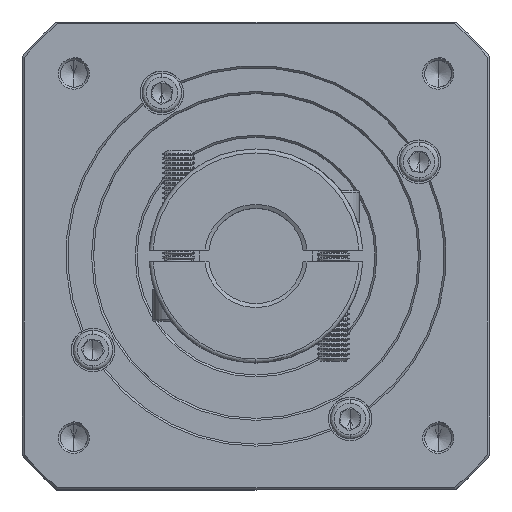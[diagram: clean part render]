
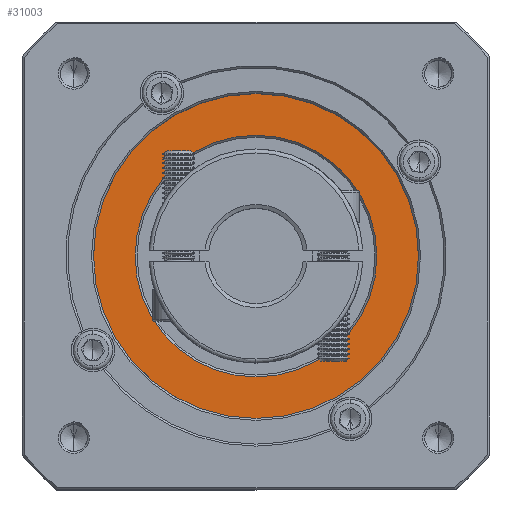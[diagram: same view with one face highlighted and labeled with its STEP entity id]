
A CAD part, top view. The second image highlights one B-rep face of the part: STEP entity #31003.
In plain terms, the highlighted planar face has unit normal (0, 0, 1).
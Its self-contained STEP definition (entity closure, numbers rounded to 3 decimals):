
#3612 = VERTEX_POINT ( 'NONE', #84834 ) ;
#8165 = DIRECTION ( 'NONE',  ( 0., 0., 1. ) ) ;
#10262 = ORIENTED_EDGE ( 'NONE', *, *, #54423, .T. ) ;
#27524 = DIRECTION ( 'NONE',  ( -1., 0., 0. ) ) ;
#28934 = DIRECTION ( 'NONE',  ( 0., 0., -1. ) ) ;
#30760 = AXIS2_PLACEMENT_3D ( 'NONE', #93261, #28934, #27524 ) ;
#31003 = ADVANCED_FACE ( 'NONE', ( #61452, #103286 ), #40683, .T. ) ;
#31258 = DIRECTION ( 'NONE',  ( 0., -1., 0. ) ) ;
#32047 = ORIENTED_EDGE ( 'NONE', *, *, #88092, .T. ) ;
#40683 = PLANE ( 'NONE',  #63308 ) ;
#46271 = DIRECTION ( 'NONE',  ( 0., -1., 0. ) ) ;
#52689 = CIRCLE ( 'NONE', #110095, 41. ) ;
#53303 = CARTESIAN_POINT ( 'NONE',  ( 49.054, 18.884, -31.658 ) ) ;
#54423 = EDGE_CURVE ( 'NONE', #82388, #69382, #107993, .T. ) ;
#57040 = CARTESIAN_POINT ( 'NONE',  ( 49.054, 59.884, -31.658 ) ) ;
#60750 = ORIENTED_EDGE ( 'NONE', *, *, #135257, .T. ) ;
#61452 = FACE_OUTER_BOUND ( 'NONE', #71280, .T. ) ;
#63308 = AXIS2_PLACEMENT_3D ( 'NONE', #126192, #8165, #31258 ) ;
#68578 = CARTESIAN_POINT ( 'NONE',  ( 18.554, 59.884, -31.658 ) ) ;
#69382 = VERTEX_POINT ( 'NONE', #91921 ) ;
#71280 = EDGE_LOOP ( 'NONE', ( #60750, #32047 ) ) ;
#77919 = CARTESIAN_POINT ( 'NONE',  ( 49.054, 59.884, -31.658 ) ) ;
#80022 = DIRECTION ( 'NONE',  ( 0., 0., 1. ) ) ;
#81122 = AXIS2_PLACEMENT_3D ( 'NONE', #105734, #127365, #128288 ) ;
#82388 = VERTEX_POINT ( 'NONE', #68578 ) ;
#84834 = CARTESIAN_POINT ( 'NONE',  ( 49.054, 100.884, -31.658 ) ) ;
#85300 = VERTEX_POINT ( 'NONE', #53303 ) ;
#88092 = EDGE_CURVE ( 'NONE', #3612, #85300, #90869, .T. ) ;
#89130 = EDGE_CURVE ( 'NONE', #69382, #82388, #120531, .T. ) ;
#90869 = CIRCLE ( 'NONE', #133213, 41. ) ;
#91921 = CARTESIAN_POINT ( 'NONE',  ( 79.554, 59.884, -31.658 ) ) ;
#93261 = CARTESIAN_POINT ( 'NONE',  ( 49.054, 59.884, -31.658 ) ) ;
#100175 = DIRECTION ( 'NONE',  ( 0., -1., 0. ) ) ;
#103286 = FACE_BOUND ( 'NONE', #117244, .T. ) ;
#105308 = ORIENTED_EDGE ( 'NONE', *, *, #89130, .T. ) ;
#105734 = CARTESIAN_POINT ( 'NONE',  ( 49.054, 59.884, -31.658 ) ) ;
#107993 = CIRCLE ( 'NONE', #81122, 30.5 ) ;
#110095 = AXIS2_PLACEMENT_3D ( 'NONE', #77919, #138370, #46271 ) ;
#117244 = EDGE_LOOP ( 'NONE', ( #10262, #105308 ) ) ;
#120531 = CIRCLE ( 'NONE', #30760, 30.5 ) ;
#126192 = CARTESIAN_POINT ( 'NONE',  ( 49.054, 59.884, -31.658 ) ) ;
#127365 = DIRECTION ( 'NONE',  ( 0., 0., -1. ) ) ;
#128288 = DIRECTION ( 'NONE',  ( -1., 0., 0. ) ) ;
#133213 = AXIS2_PLACEMENT_3D ( 'NONE', #57040, #80022, #100175 ) ;
#135257 = EDGE_CURVE ( 'NONE', #85300, #3612, #52689, .T. ) ;
#138370 = DIRECTION ( 'NONE',  ( 0., 0., 1. ) ) ;
